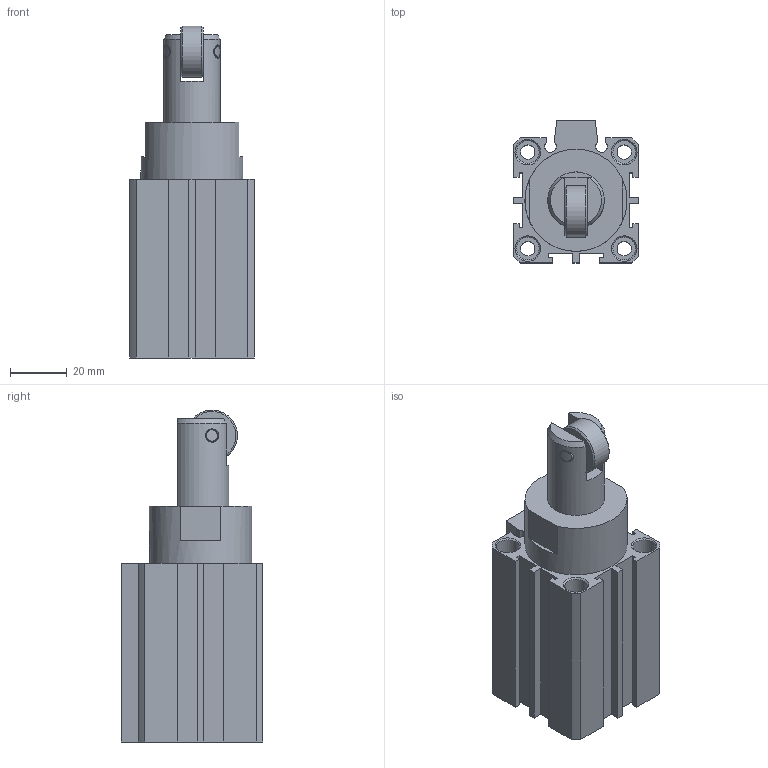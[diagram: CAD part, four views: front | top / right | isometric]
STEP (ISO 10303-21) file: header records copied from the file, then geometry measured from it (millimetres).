
FILE_DESCRIPTION((''),'2;1');
FILE_NAME('I:\3D電子目錄\氣缸\STC\STC\STC32\STC32x15.stp','2007-09-19T15:44:56',('Administrator'),(''),'Autodesk Inventor 11','Autodesk Inventor 11','');
FILE_SCHEMA(('AUTOMOTIVE_DESIGN { 1 0 10303 214 1 1 1 1 }'));
Length unit declared in the file: millimetre
Products named in the file (1): STC32
Bounding box: 44 x 50 x 117 mm (x, y, z)
Volume: 133607.6 mm3; surface area: 31389.5 mm2
Topology: 2 solids, 2 shells, 138 faces, 327 edges, 214 vertices
Faces by surface type: plane 78, cylinder 34, cone 16, bspline 9, torus 1
Full cylindrical faces by diameter (mm): 2.2 x2, 4 x2, 4.2 x2, 5.1 x4, 8 x8, 18 x1, 23 x1, 34 x2, 36 x2
Entity records: 4421 total; most frequent: CARTESIAN_POINT 1385, DIRECTION 612, ORIENTED_EDGE 550, EDGE_CURVE 275, AXIS2_PLACEMENT_3D 219, EDGE_LOOP 214, VERTEX_POINT 205, VECTOR 174
